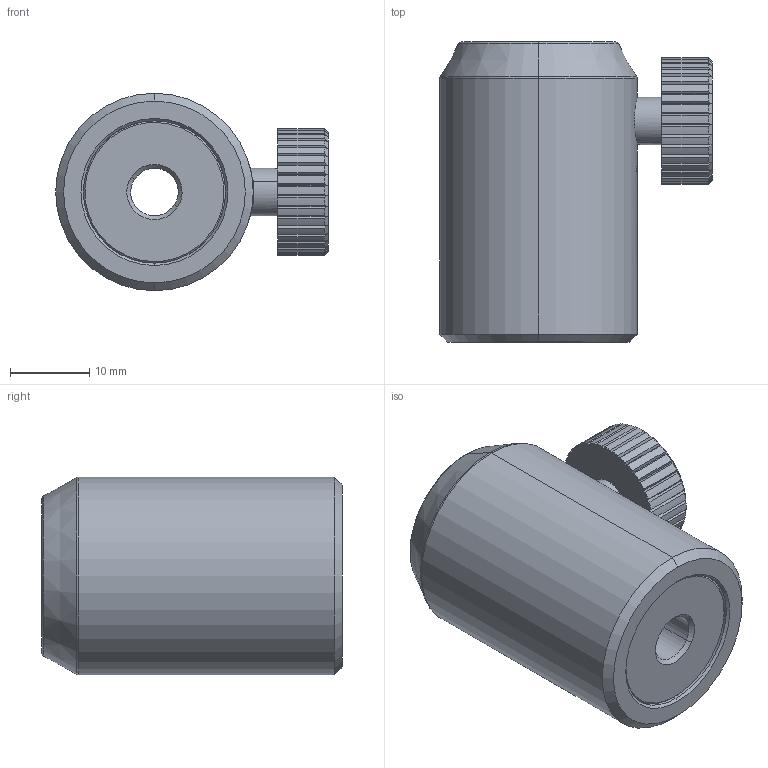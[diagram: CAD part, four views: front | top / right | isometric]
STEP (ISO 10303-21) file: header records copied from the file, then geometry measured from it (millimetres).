
FILE_DESCRIPTION (( 'STEP AP203' ), '1' );
FILE_NAME ('M-PH12-38.STEP', '2020-07-28T01:56:14', ( '' ), ( '' ), 'SwSTEP 2.0', 'SolidWorks 2019', '' );
FILE_SCHEMA (( 'CONFIG_CONTROL_DESIGN' ));
Length unit declared in the file: millimetre
Products named in the file (1): M-PH12-38
Bounding box: 34.5 x 38 x 25 mm (x, y, z)
Volume: 15391.3 mm3; surface area: 6534.3 mm2
Topology: 2 solids, 5 shells, 216 faces, 574 edges, 375 vertices
Faces by surface type: plane 112, cylinder 77, cone 16, sphere 5, torus 4, bspline 2
Entity records: 9113 total; most frequent: CARTESIAN_POINT 3729, ORIENTED_EDGE 1134, DIRECTION 1074, EDGE_CURVE 567, AXIS2_PLACEMENT_3D 396, VERTEX_POINT 371, LINE 282, VECTOR 282
